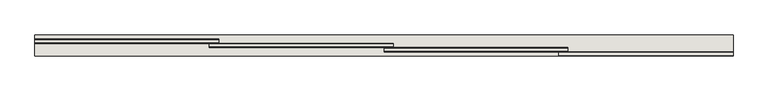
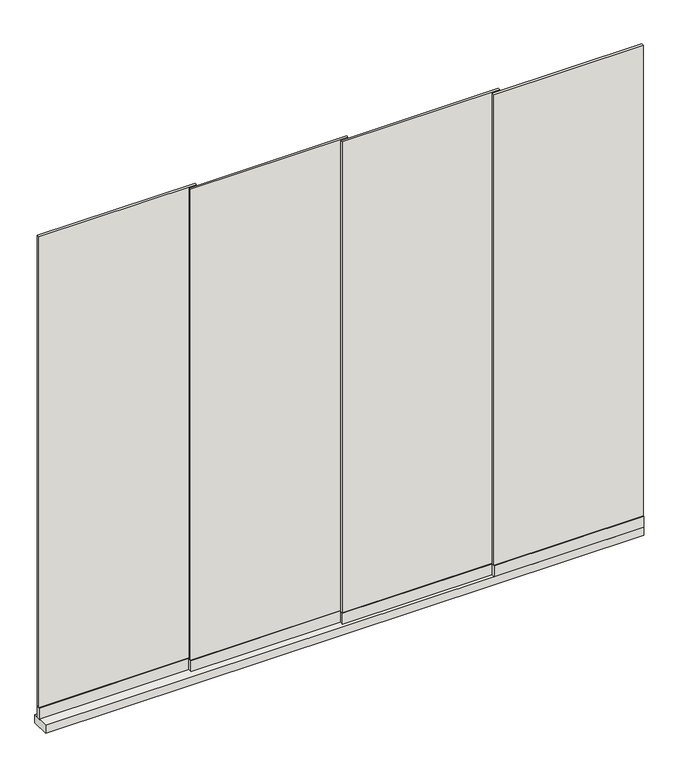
"""IFC4 building model written with IfcOpenShell, lengths in millimetres: wall geometry, Renson_Amani_Glass_Sliding_Panel : Renson_Amani_Glass_Sliding_Panel."""

from ifc_helpers import new_model, si_unit, frame, origin, origin_with_axes, place, context, project, spatial, polyline, outline, extrude, source, transform, mapped, element, save


def wall_de337338(model_context):
    return source(origin(), model_context, "Body", "SweptSolid", [
        extrude(outline(polyline([(-1165.0, 48.0), (-1850.0, 48.0), (-1850.0, 64.0), (-1165.0, 64.0), (-1165.0, 48.0)])), frame((0.0, 0.0, 35.0), z_axis=(0.0, 0.0, 1.0), x_axis=(1.0, 0.0, 0.0)), (0.0, 0.0, 1.0), 51.0),
        extrude(outline(polyline([(750.0, 0.0), (-1850.0, 0.0), (-1850.0, 80.0), (750.0, 80.0), (750.0, 0.0)])), origin_with_axes(), (0.0, 0.0, 1.0), 35.0),
        extrude(outline(polyline([(750.0, 3.0), (100.0, 3.0), (100.0, 13.0), (750.0, 13.0), (750.0, 3.0)])), frame((0.0, 0.0, 86.0), z_axis=(0.0, 0.0, 1.0), x_axis=(1.0, 0.0, 0.0)), (0.0, 0.0, 1.0), 2164.0),
        extrude(outline(polyline([(135.0, 19.0), (-550.0, 19.0), (-550.0, 29.0), (135.0, 29.0), (135.0, 19.0)])), frame((0.0, 0.0, 86.0), z_axis=(0.0, 0.0, 1.0), x_axis=(1.0, 0.0, 0.0)), (0.0, 0.0, 1.0), 2164.0),
        extrude(outline(polyline([(-1165.0, 51.0), (-1850.0, 51.0), (-1850.0, 61.0), (-1165.0, 61.0), (-1165.0, 51.0)])), frame((0.0, 0.0, 86.0), z_axis=(0.0, 0.0, 1.0), x_axis=(1.0, 0.0, 0.0)), (0.0, 0.0, 1.0), 2164.0),
        extrude(outline(polyline([(-515.0, 35.0), (-1200.0, 35.0), (-1200.0, 45.0), (-515.0, 45.0), (-515.0, 35.0)])), frame((0.0, 0.0, 86.0), z_axis=(0.0, 0.0, 1.0), x_axis=(1.0, 0.0, 0.0)), (0.0, 0.0, 1.0), 2164.0),
        extrude(outline(polyline([(750.0, 0.0), (100.0, 0.0), (100.0, 16.0), (750.0, 16.0), (750.0, 0.0)])), frame((0.0, 0.0, 35.0), z_axis=(0.0, 0.0, 1.0), x_axis=(1.0, 0.0, 0.0)), (0.0, 0.0, 1.0), 51.0),
        extrude(outline(polyline([(135.0, 16.0), (-550.0, 16.0), (-550.0, 32.0), (135.0, 32.0), (135.0, 16.0)])), frame((0.0, 0.0, 35.0), z_axis=(0.0, 0.0, 1.0), x_axis=(1.0, 0.0, 0.0)), (0.0, 0.0, 1.0), 51.0),
        extrude(outline(polyline([(-515.0, 32.0), (-1200.0, 32.0), (-1200.0, 48.0), (-515.0, 48.0), (-515.0, 32.0)])), frame((0.0, 0.0, 35.0), z_axis=(0.0, 0.0, 1.0), x_axis=(1.0, 0.0, 0.0)), (0.0, 0.0, 1.0), 51.0),
    ])


if __name__ == "__main__":
    model = new_model("IFC4")
    model_context = context("Model", 3, world=origin())
    ifc_project = project(units=[si_unit("LENGTHUNIT", "METRE", prefix="MILLI")], contexts=[model_context])
    site = spatial("IfcSite", under=ifc_project)
    building = spatial("IfcBuilding", under=site)
    placement = place(None, origin())
    wall_shape = wall_de337338(model_context)
    element("IfcWall", 1, ObjectType="Renson_Amani_Glass_Sliding_Panel : Renson_Amani_Glass_Sliding_Panel", at=placement, inside=building, context=model_context, shape_type="MappedRepresentation", body=[
        mapped(wall_shape, transform((0.0, 0.0, 0.0), x_axis=(1.0, 0.0, 0.0), y_axis=(0.0, 1.0, 0.0), z_axis=(0.0, 0.0, 1.0))),
    ])
    save(model, "model.ifc")
